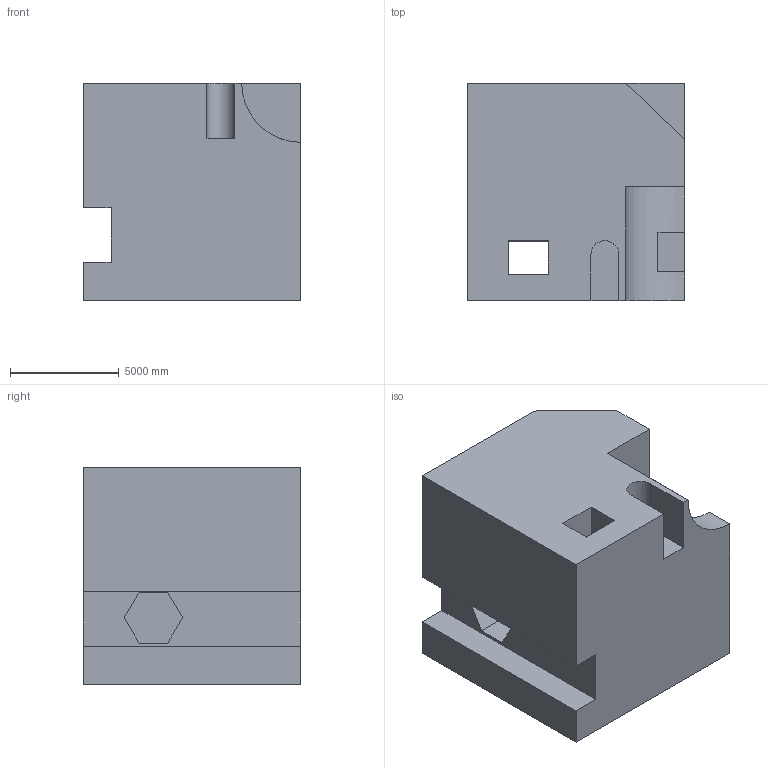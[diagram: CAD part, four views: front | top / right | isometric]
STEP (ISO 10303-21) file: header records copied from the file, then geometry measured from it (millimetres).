
FILE_DESCRIPTION (( 'STEP AP203' ), '1' );
FILE_NAME ('1611.STEP', '2022-08-18T16:09:10', ( 'user' ), ( '' ), 'SwSTEP 2.0', 'SolidWorks 2021', '' );
FILE_SCHEMA (( 'CONFIG_CONTROL_DESIGN' ));
Length unit declared in the file: centimetre
Products named in the file (1): 1611
Bounding box: 10000 x 10000 x 10000 mm (x, y, z)
Volume: 868832083976.3 mm3; surface area: 717343265.2 mm2
Topology: 1 solids, 1 shells, 33 faces, 90 edges, 60 vertices
Faces by surface type: plane 31, cylinder 2
Entity records: 1111 total; most frequent: CARTESIAN_POINT 184, ORIENTED_EDGE 180, DIRECTION 164, EDGE_CURVE 90, VECTOR 84, LINE 84, VERTEX_POINT 60, AXIS2_PLACEMENT_3D 40
